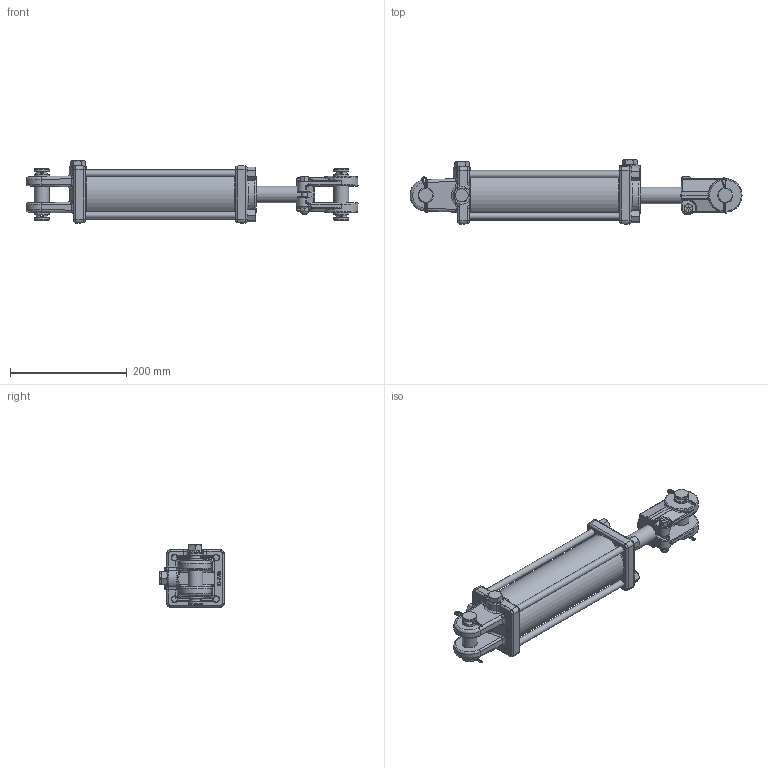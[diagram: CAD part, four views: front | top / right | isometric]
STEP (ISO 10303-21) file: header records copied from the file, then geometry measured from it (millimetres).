
FILE_DESCRIPTION((''),'2;1');
FILE_NAME('C:\Vault\Workspace\Vest\SAE-7108.stp','2010-08-17T14:48:44',('NewtonB'),(''),'Autodesk Inventor 2010','Autodesk Inventor 2010','');
FILE_SCHEMA(('AUTOMOTIVE_DESIGN { 1 0 10303 214 1 1 1 1 }'));
Length unit declared in the file: inch
Products named in the file (24): SAE-7108V; 051510063AV; 141500043V; 081500230V; 010500005V; 100000423V; 100000422V; 170002104V; 220000203V; 071500003V; 220000208V; 240063334V; 240000334V; 240000018V; 240000232V; 240061232V; 250001216V; 170201122V; 800005001V_12.25; 220000105V; 190400001V; 220001504V; 200300040V; 240037071V
Assembly tree (35 placements, depth 3):
  SAE-7108V
    051510063AV
    141500043V
    081500230V
    010500005V
    100000423V
      100000422V
      170002104V
      220000203V
    071500003V
    220000208V
    240063334V  x2
    240000334V
    240000018V
    240000232V  x2
    240061232V  x2
    250001216V
    170201122V  x4
      800005001V_12.25
      220000105V
    190400001V  x2
    220001504V  x4
    200300040V  x3
    240037071V
Bounding box: 569.83 x 110.29 x 106.98 mm (x, y, z)
Volume: 1651314 mm3; surface area: 429154.5 mm2
Topology: 36 solids, 36 shells, 1073 faces, 2512 edges, 1514 vertices
Faces by surface type: plane 328, bspline 315, cylinder 233, cone 155, torus 25, sphere 17
Full cylindrical faces by diameter (mm): 1.143 x2, 5.159 x4, 9.493 x1, 10.319 x2, 11.43 x4, 16.764 x3, 18.999 x1, 19.05 x3, 19.126 x1, 21.59 x1, 25.4 x6, 25.781 x4, 28.575 x2, 28.577 x1, 28.651 x2, 29.211 x2, 31.598 x2, 34.29 x1, 34.9 x2, 34.925 x1, 66.675 x2, 66.802 x1, 70.561 x4, 75.565 x2, 75.946 x6, 76.048 x2, 76.2 x1, 85.725 x1
Entity records: 31143 total; most frequent: CARTESIAN_POINT 12474, ORIENTED_EDGE 3782, DIRECTION 3407, EDGE_CURVE 1891, AXIS2_PLACEMENT_3D 1376, VERTEX_POINT 1207, EDGE_LOOP 1070, FACE_OUTER_BOUND 865
